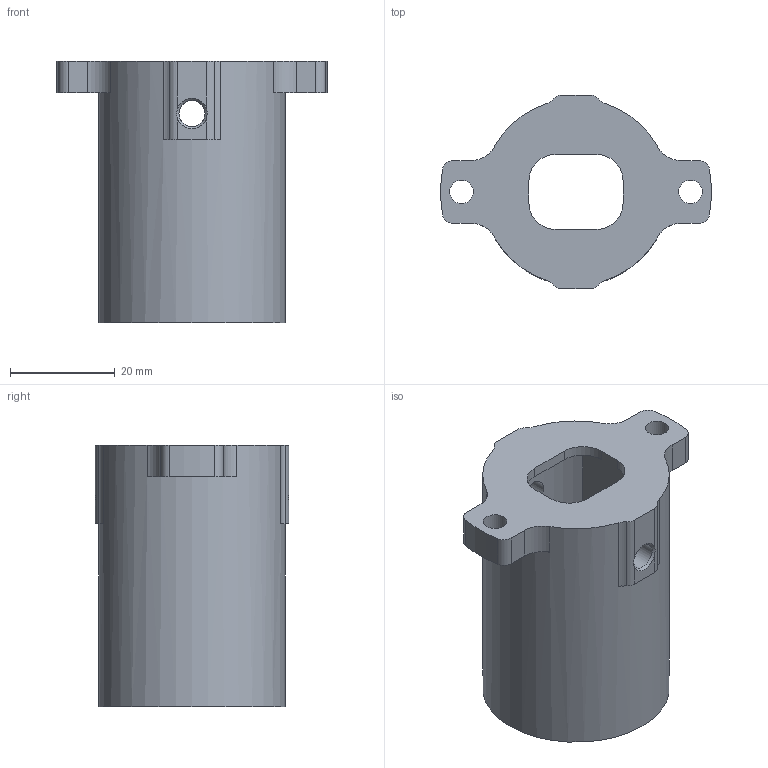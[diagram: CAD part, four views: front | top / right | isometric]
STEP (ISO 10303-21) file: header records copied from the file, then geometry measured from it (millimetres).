
FILE_DESCRIPTION(/* description */ (''),/* implementation_level */ '2;1');
FILE_NAME(/* name */ 'pp3.stp',/* time_stamp */ '2024-11-29T19:53:17+01:00',/* author */ ('R5800u'),/* organization */ (''),/* preprocessor_version */ 'ST-DEVELOPER v20',/* originating_system */ 'Autodesk Inventor 2025',/* authorisation */ '');
FILE_SCHEMA (('AUTOMOTIVE_DESIGN { 1 0 10303 214 3 1 1 }'));
Length unit declared in the file: millimetre
Products named in the file (1): pp3
Bounding box: 51.72 x 37 x 50 mm (x, y, z)
Volume: 32909.5 mm3; surface area: 11472.4 mm2
Topology: 1 solids, 1 shells, 51 faces, 155 edges, 104 vertices
Faces by surface type: cylinder 29, plane 20, cone 2
Full cylindrical faces by diameter (mm): 4.5 x2, 5 x2, 35.7 x1
Entity records: 1924 total; most frequent: CARTESIAN_POINT 417, DIRECTION 319, ORIENTED_EDGE 310, EDGE_CURVE 155, AXIS2_PLACEMENT_3D 122, VERTEX_POINT 104, LINE 75, VECTOR 75
